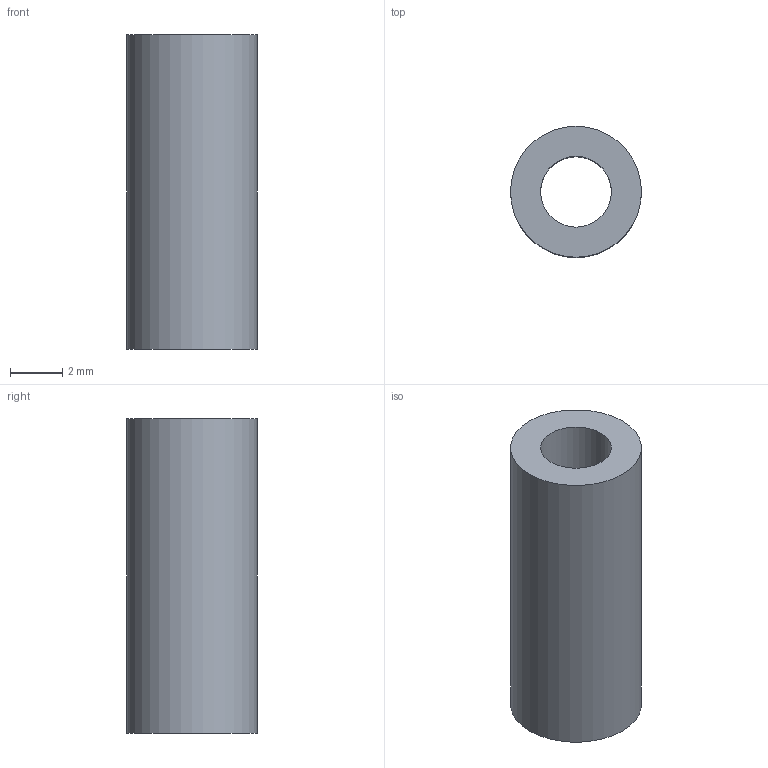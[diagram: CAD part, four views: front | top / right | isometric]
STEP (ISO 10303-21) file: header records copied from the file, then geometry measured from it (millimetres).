
FILE_DESCRIPTION(('Open CASCADE Model'),'2;1');
FILE_NAME('Open CASCADE Shape Model','2026-09-22T07:23:23',('Author'),( 'Open CASCADE'),'Open CASCADE STEP processor 7.9','Open CASCADE 7.9' ,'Unknown');
FILE_SCHEMA(('AUTOMOTIVE_DESIGN { 1 0 10303 214 1 1 1 1 }'));
Length unit declared in the file: millimetre
Products named in the file (1): Open CASCADE STEP translator 7.9 4
Bounding box: 5 x 5 x 12 mm (x, y, z)
Volume: 166.9 mm3; surface area: 318.1 mm2
Topology: 1 solids, 1 shells, 4 faces, 6 edges, 4 vertices
Faces by surface type: cylinder 2, plane 2
Full cylindrical faces by diameter (mm): 2.7 x1, 5 x1
Entity records: 186 total; most frequent: DIRECTION 32, CARTESIAN_POINT 27, ORIENTED_EDGE 12, PCURVE 12, DEFINITIONAL_REPRESENTATION 12, LINE 10, VECTOR 10, AXIS2_PLACEMENT_3D 9
